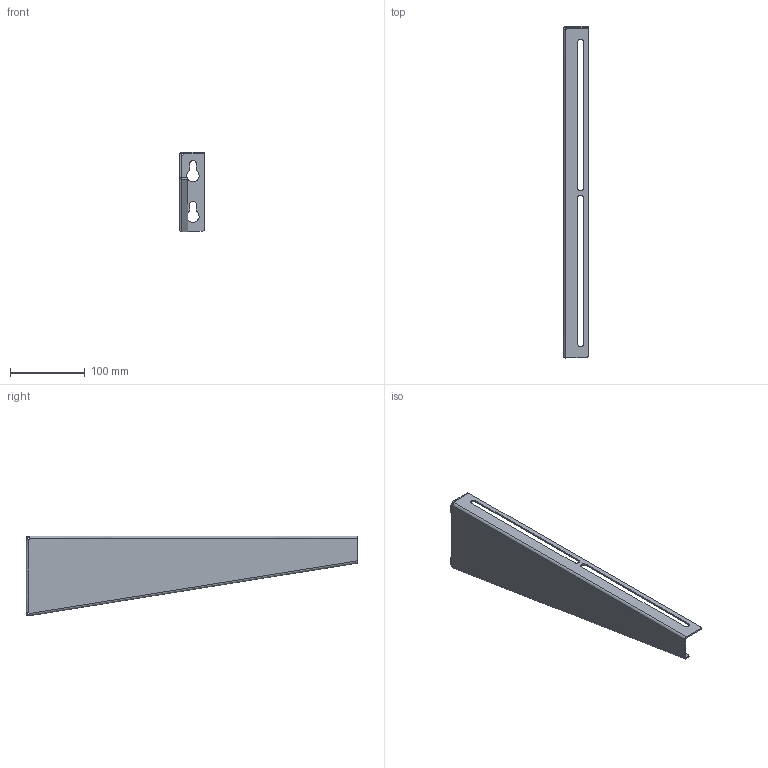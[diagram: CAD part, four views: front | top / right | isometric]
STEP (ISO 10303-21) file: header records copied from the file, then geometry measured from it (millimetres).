
FILE_DESCRIPTION(/* description */ (''),/* implementation_level */ '2;1');
FILE_NAME(/* name */ 'NZMU400_part',/* time_stamp */ '2022-09-01T12:31:06+02:00',/* author */ (''),/* organization */ (''),/* preprocessor_version */ 'ST-DEVELOPER v16.5',/* originating_system */ '',/* authorisation */ '');
FILE_SCHEMA (('CONFIG_CONTROL_DESIGN'));
Length unit declared in the file: millimetre
Products named in the file (1): Document
Bounding box: 33 x 445.24 x 107.16 mm (x, y, z)
Surface area: 100186.2 mm2 (no closed solid volume)
Topology: 0 solids, 1 shells, 55 faces, 140 edges, 86 vertices
Faces by surface type: plane 27, cylinder 16, bspline 12
Entity records: 1801 total; most frequent: CARTESIAN_POINT 849, ORIENTED_EDGE 274, EDGE_CURVE 140, VERTEX_POINT 86, EDGE_LOOP 63, ADVANCED_FACE 55, FACE_OUTER_BOUND 55, DIRECTION 47
